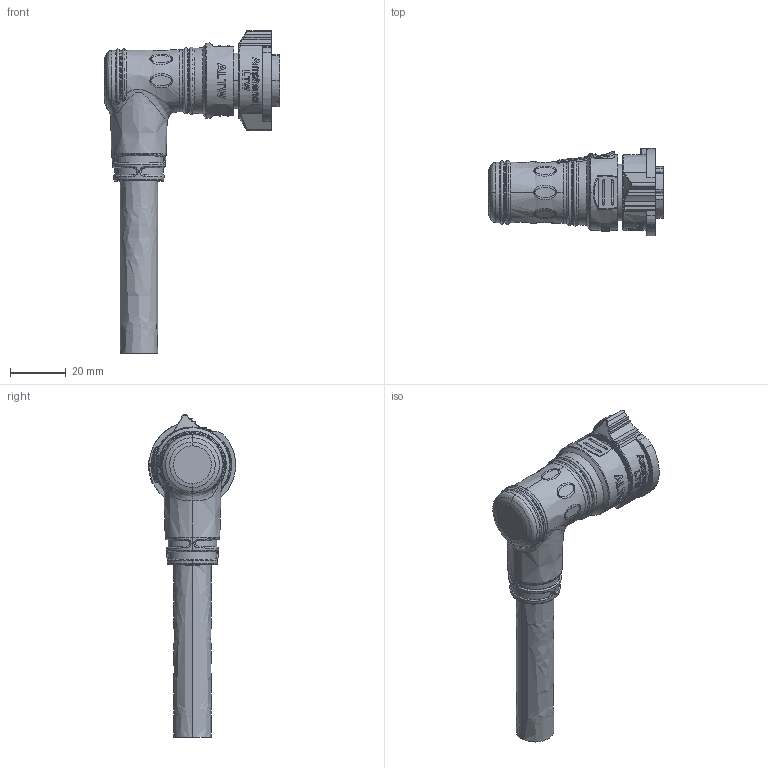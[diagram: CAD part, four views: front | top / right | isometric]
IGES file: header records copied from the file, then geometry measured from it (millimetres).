
Start section:  PTC IGES file: dcd-12affm-qr8fxx.igs
Global section: file name: dcd-12affm-qr8fxx.igs; native system: Creo Parametric by Parametric Technology Corporation; preprocessor: 2017170; author: L210023; organization: Unknown; date: 20210706.142830; units: millimetre
Bounding box: 63.05 x 31.26 x 115.76 mm (x, y, z)
Volume: 43920.6 mm3; surface area: 14457 mm2
Topology: 2 solids, 4 shells, 1468 faces, 3878 edges, 2480 vertices
Faces by surface type: bspline 1468
